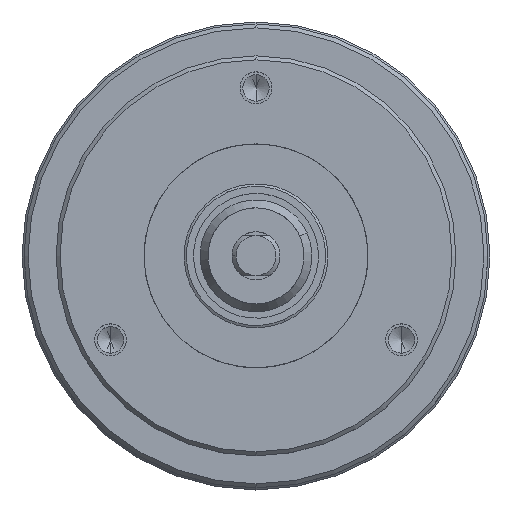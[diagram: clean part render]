
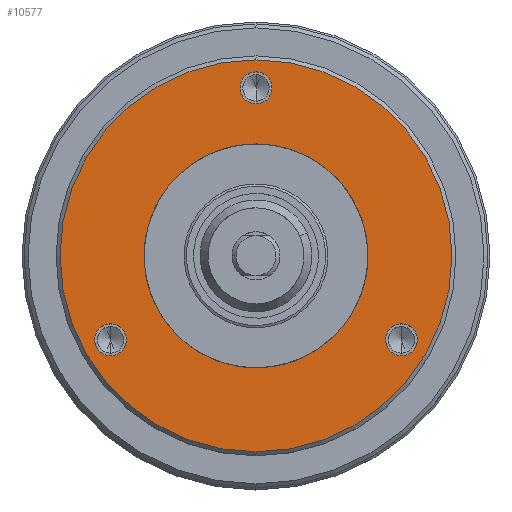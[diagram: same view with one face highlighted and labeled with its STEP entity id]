
A CAD part, top view. The second image highlights one B-rep face of the part: STEP entity #10577.
In plain terms, the highlighted planar face has unit normal (0, 0, 1).
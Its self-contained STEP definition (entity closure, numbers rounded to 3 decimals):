
#27 = DIRECTION ( 'NONE',  ( 0., 0., 1. ) ) ;
#54 = CIRCLE ( 'NONE', #12035, 2. ) ;
#78 = EDGE_CURVE ( 'NONE', #12467, #10853, #14115, .T. ) ;
#717 = CARTESIAN_POINT ( 'NONE',  ( -18.187, -10.5, 0. ) ) ;
#730 = AXIS2_PLACEMENT_3D ( 'NONE', #3532, #14935, #5195 ) ;
#921 = FACE_BOUND ( 'NONE', #6449, .T. ) ;
#1446 = FACE_BOUND ( 'NONE', #19634, .T. ) ;
#1461 = CARTESIAN_POINT ( 'NONE',  ( -14., 0., 0. ) ) ;
#1942 = CARTESIAN_POINT ( 'NONE',  ( 0., 21., 0. ) ) ;
#1966 = EDGE_CURVE ( 'NONE', #12911, #5161, #17446, .T. ) ;
#2211 = VERTEX_POINT ( 'NONE', #13096 ) ;
#2941 = CARTESIAN_POINT ( 'NONE',  ( 18.187, -10.5, 0. ) ) ;
#3090 = DIRECTION ( 'NONE',  ( 0., -1., 0. ) ) ;
#3532 = CARTESIAN_POINT ( 'NONE',  ( 0., 0., 0. ) ) ;
#3573 = DIRECTION ( 'NONE',  ( 0., 0., 1. ) ) ;
#3575 = DIRECTION ( 'NONE',  ( 0., 1., 0. ) ) ;
#3798 = CIRCLE ( 'NONE', #8702, 2. ) ;
#4586 = DIRECTION ( 'NONE',  ( 0., 1., 0. ) ) ;
#4672 = DIRECTION ( 'NONE',  ( 0., 0., 1. ) ) ;
#5079 = AXIS2_PLACEMENT_3D ( 'NONE', #7753, #19136, #9413 ) ;
#5161 = VERTEX_POINT ( 'NONE', #14549 ) ;
#5195 = DIRECTION ( 'NONE',  ( 0., 1., 0. ) ) ;
#5197 = CARTESIAN_POINT ( 'NONE',  ( 0., -14., 0. ) ) ;
#5274 = FACE_BOUND ( 'NONE', #16872, .T. ) ;
#5366 = CARTESIAN_POINT ( 'NONE',  ( -18.187, -12.5, 0. ) ) ;
#5516 = CIRCLE ( 'NONE', #15510, 14. ) ;
#5652 = VERTEX_POINT ( 'NONE', #9255 ) ;
#5930 = EDGE_CURVE ( 'NONE', #2211, #12072, #19625, .T. ) ;
#5958 = CIRCLE ( 'NONE', #7345, 2. ) ;
#6116 = CARTESIAN_POINT ( 'NONE',  ( 0., 0., 0. ) ) ;
#6119 = EDGE_CURVE ( 'NONE', #21032, #5652, #3798, .T. ) ;
#6449 = EDGE_LOOP ( 'NONE', ( #19402, #20437 ) ) ;
#7035 = EDGE_CURVE ( 'NONE', #10853, #12467, #5958, .T. ) ;
#7345 = AXIS2_PLACEMENT_3D ( 'NONE', #19132, #9409, #20770 ) ;
#7749 = DIRECTION ( 'NONE',  ( 0., 1., 0. ) ) ;
#7753 = CARTESIAN_POINT ( 'NONE',  ( 18.187, -10.5, 0. ) ) ;
#7812 = ORIENTED_EDGE ( 'NONE', *, *, #15184, .F. ) ;
#8702 = AXIS2_PLACEMENT_3D ( 'NONE', #1942, #13354, #3575 ) ;
#9255 = CARTESIAN_POINT ( 'NONE',  ( 0., 23., 0. ) ) ;
#9349 = CARTESIAN_POINT ( 'NONE',  ( 0., 24.5, 0. ) ) ;
#9409 = DIRECTION ( 'NONE',  ( 0., 0., 1. ) ) ;
#9413 = DIRECTION ( 'NONE',  ( 0., 1., 0. ) ) ;
#9628 = FACE_BOUND ( 'NONE', #19599, .T. ) ;
#9812 = CARTESIAN_POINT ( 'NONE',  ( 0., 21., 0. ) ) ;
#10254 = ORIENTED_EDGE ( 'NONE', *, *, #1966, .F. ) ;
#10388 = AXIS2_PLACEMENT_3D ( 'NONE', #14427, #4672, #16050 ) ;
#10576 = EDGE_CURVE ( 'NONE', #14532, #17443, #13931, .T. ) ;
#10577 = ADVANCED_FACE ( 'NONE', ( #14449, #1446, #9628, #5274, #921 ), #12783, .F. ) ;
#10578 = AXIS2_PLACEMENT_3D ( 'NONE', #13349, #3573, #14977 ) ;
#10853 = VERTEX_POINT ( 'NONE', #5366 ) ;
#11298 = CIRCLE ( 'NONE', #10578, 24.5 ) ;
#11446 = DIRECTION ( 'NONE',  ( 0., 1., 0. ) ) ;
#11489 = CARTESIAN_POINT ( 'NONE',  ( 18.187, -12.5, 0. ) ) ;
#12035 = AXIS2_PLACEMENT_3D ( 'NONE', #9812, #27, #11446 ) ;
#12072 = VERTEX_POINT ( 'NONE', #5197 ) ;
#12435 = AXIS2_PLACEMENT_3D ( 'NONE', #1461, #12857, #3090 ) ;
#12467 = VERTEX_POINT ( 'NONE', #12567 ) ;
#12567 = CARTESIAN_POINT ( 'NONE',  ( -18.187, -8.5, 0. ) ) ;
#12576 = AXIS2_PLACEMENT_3D ( 'NONE', #2941, #14333, #4586 ) ;
#12613 = EDGE_CURVE ( 'NONE', #17443, #14532, #11298, .T. ) ;
#12783 = PLANE ( 'NONE',  #12435 ) ;
#12857 = DIRECTION ( 'NONE',  ( 0., 0., -1. ) ) ;
#12911 = VERTEX_POINT ( 'NONE', #11489 ) ;
#13096 = CARTESIAN_POINT ( 'NONE',  ( 0., 14., 0. ) ) ;
#13349 = CARTESIAN_POINT ( 'NONE',  ( 0., 0., 0. ) ) ;
#13354 = DIRECTION ( 'NONE',  ( 0., 0., 1. ) ) ;
#13455 = CARTESIAN_POINT ( 'NONE',  ( 0., -24.5, 0. ) ) ;
#13784 = ORIENTED_EDGE ( 'NONE', *, *, #12613, .T. ) ;
#13931 = CIRCLE ( 'NONE', #10388, 24.5 ) ;
#14115 = CIRCLE ( 'NONE', #16199, 2. ) ;
#14333 = DIRECTION ( 'NONE',  ( 0., 0., 1. ) ) ;
#14358 = ORIENTED_EDGE ( 'NONE', *, *, #78, .F. ) ;
#14427 = CARTESIAN_POINT ( 'NONE',  ( 0., 0., 0. ) ) ;
#14449 = FACE_OUTER_BOUND ( 'NONE', #17475, .T. ) ;
#14532 = VERTEX_POINT ( 'NONE', #13455 ) ;
#14549 = CARTESIAN_POINT ( 'NONE',  ( 18.187, -8.5, 0. ) ) ;
#14770 = ORIENTED_EDGE ( 'NONE', *, *, #10576, .T. ) ;
#14913 = DIRECTION ( 'NONE',  ( 0., 1., 0. ) ) ;
#14935 = DIRECTION ( 'NONE',  ( 0., 0., 1. ) ) ;
#14977 = DIRECTION ( 'NONE',  ( 0., -1., 0. ) ) ;
#15184 = EDGE_CURVE ( 'NONE', #5161, #12911, #20606, .T. ) ;
#15510 = AXIS2_PLACEMENT_3D ( 'NONE', #6116, #17500, #7749 ) ;
#16050 = DIRECTION ( 'NONE',  ( 0., -1., 0. ) ) ;
#16199 = AXIS2_PLACEMENT_3D ( 'NONE', #717, #19898, #14913 ) ;
#16872 = EDGE_LOOP ( 'NONE', ( #14358, #20997 ) ) ;
#17411 = ORIENTED_EDGE ( 'NONE', *, *, #20934, .F. ) ;
#17443 = VERTEX_POINT ( 'NONE', #9349 ) ;
#17446 = CIRCLE ( 'NONE', #5079, 2. ) ;
#17475 = EDGE_LOOP ( 'NONE', ( #14770, #13784 ) ) ;
#17500 = DIRECTION ( 'NONE',  ( 0., 0., 1. ) ) ;
#18099 = CARTESIAN_POINT ( 'NONE',  ( 0., 19., 0. ) ) ;
#19132 = CARTESIAN_POINT ( 'NONE',  ( -18.187, -10.5, 0. ) ) ;
#19136 = DIRECTION ( 'NONE',  ( 0., 0., 1. ) ) ;
#19402 = ORIENTED_EDGE ( 'NONE', *, *, #5930, .F. ) ;
#19599 = EDGE_LOOP ( 'NONE', ( #17411, #20323 ) ) ;
#19625 = CIRCLE ( 'NONE', #730, 14. ) ;
#19634 = EDGE_LOOP ( 'NONE', ( #7812, #10254 ) ) ;
#19656 = EDGE_CURVE ( 'NONE', #12072, #2211, #5516, .T. ) ;
#19898 = DIRECTION ( 'NONE',  ( 0., 0., 1. ) ) ;
#20323 = ORIENTED_EDGE ( 'NONE', *, *, #6119, .F. ) ;
#20437 = ORIENTED_EDGE ( 'NONE', *, *, #19656, .F. ) ;
#20606 = CIRCLE ( 'NONE', #12576, 2. ) ;
#20770 = DIRECTION ( 'NONE',  ( 0., 1., 0. ) ) ;
#20934 = EDGE_CURVE ( 'NONE', #5652, #21032, #54, .T. ) ;
#20997 = ORIENTED_EDGE ( 'NONE', *, *, #7035, .F. ) ;
#21032 = VERTEX_POINT ( 'NONE', #18099 ) ;
